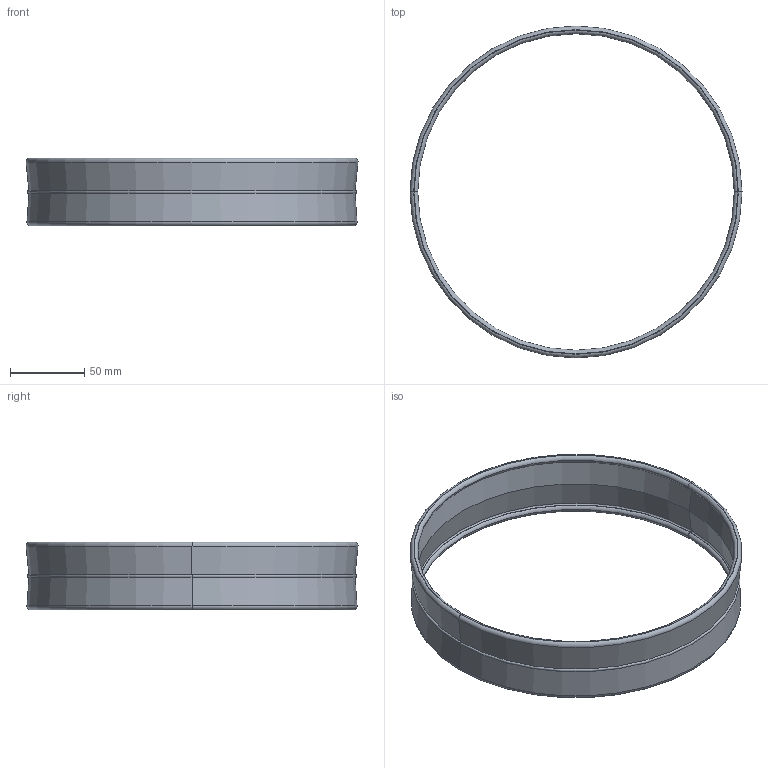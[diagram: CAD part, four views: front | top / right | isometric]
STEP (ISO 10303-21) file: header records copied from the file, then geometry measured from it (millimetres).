
FILE_DESCRIPTION (( 'STEP AP214' ), '1' );
FILE_NAME ('0838 Schutzring.STEP', '2025-03-26T13:09:43', ( '' ), ( '' ), 'SwSTEP 2.0', 'SolidWorks 2022', '' );
FILE_SCHEMA (( 'AUTOMOTIVE_DESIGN' ));
Length unit declared in the file: millimetre
Products named in the file (1): 0838 Schutzring
Bounding box: 223.95 x 223.95 x 45.8 mm (x, y, z)
Volume: 65188 mm3; surface area: 70605.6 mm2
Topology: 1 solids, 1 shells, 30 faces, 60 edges, 34 vertices
Faces by surface type: torus 18, cone 8, plane 4
Entity records: 1160 total; most frequent: DIRECTION 174, CARTESIAN_POINT 125, ORIENTED_EDGE 120, AXIS2_PLACEMENT_3D 83, EDGE_CURVE 60, CIRCLE 52, VERTEX_POINT 34, EDGE_LOOP 34
